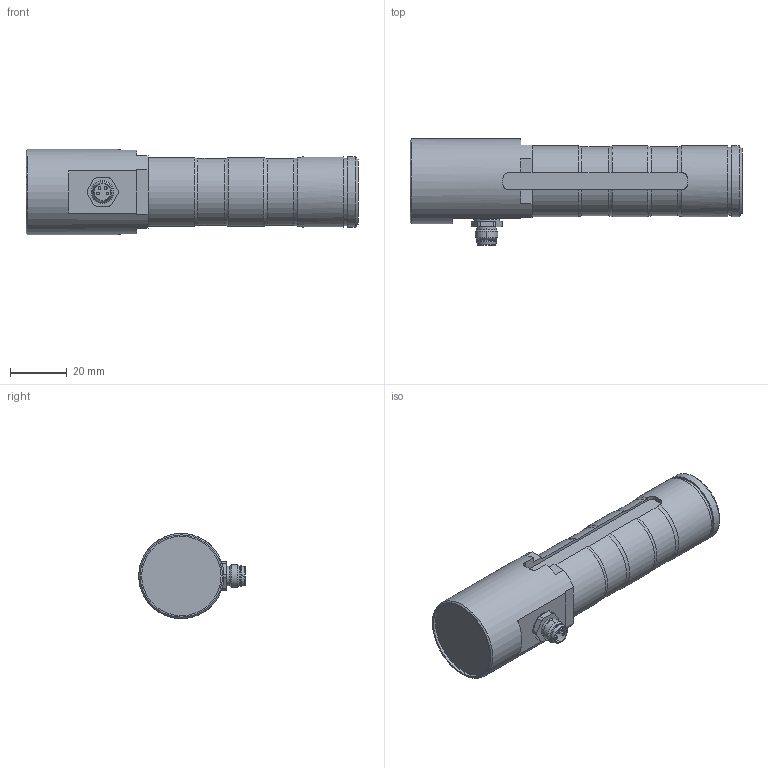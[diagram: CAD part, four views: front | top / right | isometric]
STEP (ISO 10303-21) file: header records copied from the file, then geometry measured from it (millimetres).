
FILE_DESCRIPTION(/* description */ ('Alibre Inc.'),/* implementation_level */ '2;1');
FILE_NAME(/* name */ 'export-DD263BCB-A6E6-4E15-9F8E-5ECBB3295D07',/* time_stamp */ '2020-08-28T14:11:02+02:00',/* author */ (''),/* organization */ (''),/* preprocessor_version */ 'ST-DEVELOPER v17',/* originating_system */ 'Alibre',/* authorisation */ '');
FILE_SCHEMA (('CONFIG_CONTROL_DESIGN'));
Length unit declared in the file: centimetre
Bounding box: 117 x 37.5 x 30 mm (x, y, z)
Volume: 63519 mm3; surface area: 12831 mm2
Topology: 2 solids, 2 shells, 135 faces, 337 edges, 225 vertices
Faces by surface type: cylinder 60, plane 55, cone 10, torus 10
Full cylindrical faces by diameter (mm): 1 x4, 7.5 x1, 23.9 x1, 25 x2, 28 x1, 30 x1
Entity records: 4234 total; most frequent: CARTESIAN_POINT 865, ORIENTED_EDGE 658, DIRECTION 586, EDGE_CURVE 329, AXIS2_PLACEMENT_3D 246, VERTEX_POINT 229, EDGE_LOOP 166, FACE_BOUND 166
